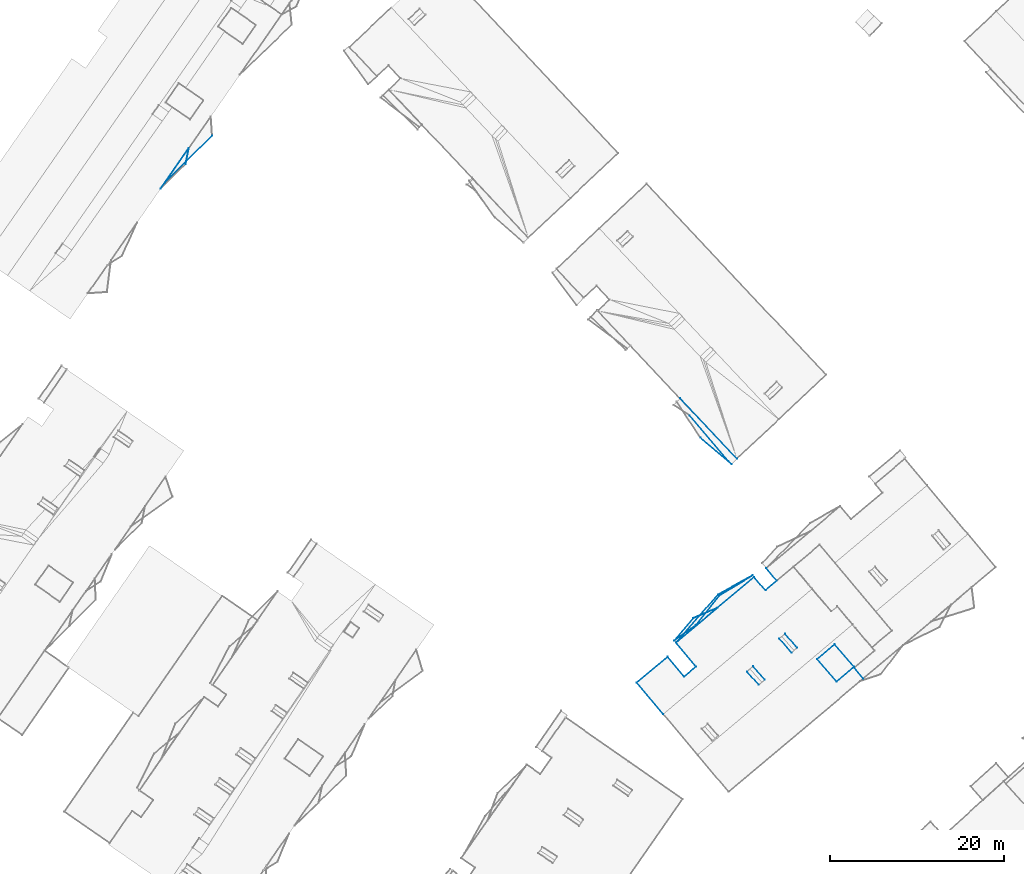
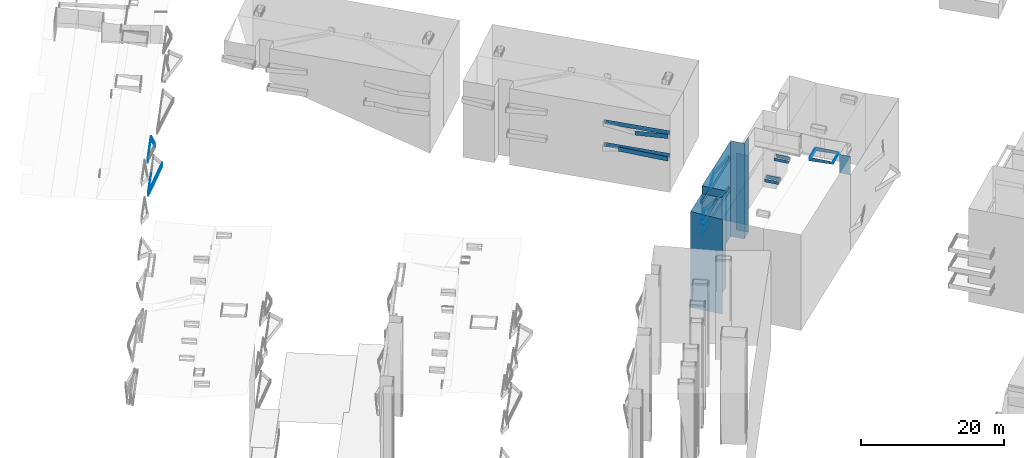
# Not in any storey, part 44 of 136: 54 walls.
"""IFC4 building model written with IfcOpenShell, lengths in metres."""

import ifcopenshell
import ifcopenshell.guid

model = None  # the IFC model being written
_history = None  # IfcOwnerHistory: only IFC2X3 demands one
_inside = {}  # id of a spatial element -> (the spatial element, [elements in it])
_under = {}  # id of a project, library or spatial element -> (it, [spatial elements below it])
_declared = {}  # id of a project -> (the project, [libraries it declares])
_typed = {}  # id of a type object -> (the type object, [elements of that type])
_made_of = {}  # id of a material, layer set ... -> (it, [elements and type objects made of it])


def new_model(schema):
    """Start an empty IFC model of exactly this schema.

    Asked for "IFC4X3", IfcOpenShell would pick the latest addendum, in which some entities
    have other attributes; the version numbers below select the first issue.
    IFC2X3 requires an IfcOwnerHistory on every rooted entity: one is made here for all.
    """
    global model, _history
    if schema == "IFC4X3":
        model = ifcopenshell.file(schema_version=(4, 3, 0, 0))
    else:
        model = ifcopenshell.file(schema=schema)
    _inside.clear()
    _under.clear()
    _declared.clear()
    _typed.clear()
    _made_of.clear()
    _history = None
    if model.schema == "IFC2X3":
        org = make("IfcOrganization", Name="unknown")
        user = make(
            "IfcPersonAndOrganization",
            ThePerson=make("IfcPerson", FamilyName="unknown"),
            TheOrganization=org,
        )
        app = make(
            "IfcApplication",
            ApplicationDeveloper=org,
            Version="unknown",
            ApplicationFullName="unknown",
            ApplicationIdentifier="unknown",
        )
        _history = make(
            "IfcOwnerHistory",
            OwningUser=user,
            OwningApplication=app,
            ChangeAction="ADDED",
            CreationDate=0,
        )
    return model


def make(cls, **values):
    """One entity of the class cls with the attributes given. An attribute that is None is left unset."""
    return model.create_entity(
        cls, **{name: value for name, value in values.items() if value is not None}
    )


def entity(cls, *values):
    """Any entity or typed value of the class cls, its attributes in the order of the schema. None: left unset."""
    e = model.create_entity(cls)
    for i, value in enumerate(values):
        if value is not None:
            e[i] = value
    return e


def rooted(cls, **values):
    """An entity with a GlobalId (a new one), such as an element, a storey or a relation."""
    return make(cls, GlobalId=ifcopenshell.guid.new(), OwnerHistory=_history, **values)


def si_unit(unit_type, name, prefix=None):
    """IfcSIUnit, for example si_unit("LENGTHUNIT", "METRE", prefix="MILLI")."""
    return make("IfcSIUnit", UnitType=unit_type, Prefix=prefix, Name=name)


def converted_unit(unit_type, name, factor, base, dimensions=None, offset=None):
    """IfcConversionBasedUnit, such as the inch: factor (a typed value) times the base unit."""
    return make(
        "IfcConversionBasedUnit"
        if offset is None
        else "IfcConversionBasedUnitWithOffset",
        ConversionOffset=offset,
        Dimensions=None
        if dimensions is None
        else entity("IfcDimensionalExponents", *dimensions),
        UnitType=unit_type,
        Name=name,
        ConversionFactor=make(
            "IfcMeasureWithUnit", ValueComponent=factor, UnitComponent=base
        ),
    )


def assignment(units):
    """IfcUnitAssignment: the units of a project."""
    return None if units is None else make("IfcUnitAssignment", Units=units)


def point(xyz):
    """IfcCartesianPoint."""
    return None if xyz is None else make("IfcCartesianPoint", Coordinates=xyz)


def direction(xyz):
    """IfcDirection."""
    return None if xyz is None else make("IfcDirection", DirectionRatios=xyz)


def frame(location, z_axis=None, x_axis=None):
    """IfcAxis2Placement3D, a coordinate frame: its origin and axes. An axis left out is left unset."""
    return make(
        "IfcAxis2Placement3D",
        Location=point(location),
        Axis=direction(z_axis),
        RefDirection=direction(x_axis),
    )


def origin():
    """The frame at (0, 0, 0) with its axes left unset."""
    return frame((0.0, 0.0, 0.0))


def place(relative_to, where):
    """IfcLocalPlacement: puts the frame where relative to a parent placement (None: the world)."""
    return make(
        "IfcLocalPlacement", PlacementRelTo=relative_to, RelativePlacement=where
    )


def context(
    kind, dimensions, precision=None, world=None, true_north=None, identifier=None
):
    """IfcGeometricRepresentationContext, for example the 3D "Model" context."""
    return make(
        "IfcGeometricRepresentationContext",
        ContextIdentifier=identifier,
        ContextType=kind,
        CoordinateSpaceDimension=dimensions,
        Precision=precision,
        WorldCoordinateSystem=world,
        TrueNorth=true_north,
    )


def subcontext(parent, identifier, kind, view, scale=None):
    """IfcGeometricRepresentationSubContext, for example "Body" below "Model"."""
    return make(
        "IfcGeometricRepresentationSubContext",
        ContextIdentifier=identifier,
        ContextType=kind,
        ParentContext=parent,
        TargetScale=scale,
        TargetView=view,
    )


def project(units=None, contexts=None):
    """IfcProject with its units and contexts."""
    return rooted(
        "IfcProject",
        Name="project",
        RepresentationContexts=contexts,
        UnitsInContext=assignment(units),
    )


def spatial(cls, under=None, at=None, **own):
    """A site, building, storey or space (cls), placed at a placement, below another one or the project."""
    s = rooted(cls, ObjectPlacement=at, **own)
    if under is not None:
        _under.setdefault(under.id(), (under, []))[1].append(s)
    return s


def faces_of(points, faces, orient=None, outer=None):
    """IfcFace entities. A face is a list of loops; a loop is a list of indices into points, from 0.

    orient and outer hold one flag for each loop. By default every Orientation is true, the
    first loop of a face is its IfcFaceOuterBound and the others are IfcFaceBound.
    """
    made = []
    for i, loops in enumerate(faces):
        bounds = []
        for j, loop in enumerate(loops):
            is_outer = j == 0 if outer is None else outer[i][j]
            bounds.append(
                make(
                    "IfcFaceOuterBound" if is_outer else "IfcFaceBound",
                    Bound=make("IfcPolyLoop", Polygon=[points[k] for k in loop]),
                    Orientation=True if orient is None else orient[i][j],
                )
            )
        made.append(make("IfcFace", Bounds=bounds))
    return made


def face_set(faces, orient=None, outer=None):
    """The faces of one IfcConnectedFaceSet. surface_model builds it on its shared points."""
    return ("IfcConnectedFaceSet", faces, orient, outer)


def surface_model(cls, points, shells):
    """IfcFaceBasedSurfaceModel or IfcShellBasedSurfaceModel (cls): surfaces that need not close."""
    shared = [point(p) for p in points]
    made = [make(c, CfsFaces=faces_of(shared, fs, o, b)) for c, fs, o, b in shells]
    if cls == "IfcFaceBasedSurfaceModel":
        return make(cls, FbsmFaces=made)
    return make(cls, SbsmBoundary=made)


def shape(context_of_items, identifier, shape_type, items):
    """IfcShapeRepresentation: the items that make up one representation, for example the "Body"."""
    return make(
        "IfcShapeRepresentation",
        ContextOfItems=context_of_items,
        RepresentationIdentifier=identifier,
        RepresentationType=shape_type,
        Items=items,
    )


def made_of(thing, what):
    """Note that an element or type object is made of a material, layer set ...; save() writes the relation."""
    if what is not None:
        _made_of.setdefault(what.id(), (what, []))[1].append(thing)
    return thing


def element(
    cls,
    number,
    at=None,
    inside=None,
    cuts=None,
    type_object=None,
    material=None,
    context=None,
    identifier="Body",
    shape_type=None,
    held_by="IfcProductDefinitionShape",
    body=None,
    shapes=None,
    **own,
):
    """One element of the class cls, such as IfcWall. Its Tag is "e" and its number.

    at: its placement. inside: the storey or other place that contains it. cuts: it is an
    opening in that element (IfcRelVoidsElement). A single representation is given by context,
    identifier, shape_type and body (its items); several are given by shapes. held_by: the class
    of the entity that holds the representations. save() writes the other relations.
    """
    e = rooted(cls, Tag="e%d" % number, ObjectPlacement=at, **own)
    if body is not None:
        shapes = [shape(context, identifier, shape_type, body)]
    if shapes is not None:
        e.Representation = make(held_by, Representations=shapes)
    if inside is not None:
        _inside.setdefault(inside.id(), (inside, []))[1].append(e)
    if cuts is not None:
        rooted(
            "IfcRelVoidsElement", RelatingBuildingElement=cuts, RelatedOpeningElement=e
        )
    if type_object is not None:
        _typed.setdefault(type_object.id(), (type_object, []))[1].append(e)
    return made_of(e, material)


def aggregate(whole, parts):
    """IfcRelAggregates: a whole, such as a stair, and the parts it consists of."""
    return rooted("IfcRelAggregates", RelatingObject=whole, RelatedObjects=parts)


def save(model, path):
    """Write the relations noted so far, then the file.

    IfcRelAggregates (storeys below a building ...), IfcRelContainedInSpatialStructure (elements
    in a storey), IfcRelDefinesByType, IfcRelAssociatesMaterial and IfcRelDeclares: one each for
    every whole, place, type object, material and project.
    """
    for whole, parts in _under.values():
        aggregate(whole, parts)
    for where, things in _inside.values():
        rooted(
            "IfcRelContainedInSpatialStructure",
            RelatedElements=things,
            RelatingStructure=where,
        )
    for kind, things in _typed.values():
        rooted("IfcRelDefinesByType", RelatedObjects=things, RelatingType=kind)
    for what, things in _made_of.values():
        rooted("IfcRelAssociatesMaterial", RelatedObjects=things, RelatingMaterial=what)
    for by, libraries in _declared.values():
        rooted("IfcRelDeclares", RelatingContext=by, RelatedDefinitions=libraries)
    model.write(path)


model = new_model("IFC4")

# Units and contexts
model_context = context("Model", 3, precision=1e-05, world=origin())
body_context = subcontext(model_context, "Body", "Model", "MODEL_VIEW")
ifc_project = project(units=[converted_unit("PLANEANGLEUNIT", "DEGREE", entity("IfcRatioMeasure", 0.0174532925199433), si_unit("PLANEANGLEUNIT", "RADIAN"), dimensions=[0, 0, 0, 0, 0, 0, 0]), si_unit("AREAUNIT", "SQUARE_METRE"), si_unit("LENGTHUNIT", "METRE")], contexts=[model_context])

# Site, building
site_placement = place(None, origin())
site = spatial("IfcSite", under=ifc_project, at=site_placement, Name="_site")
building_1_placement = place(site_placement, origin())
building_1 = spatial("IfcBuilding", under=site, at=building_1_placement, Name="_building")

# Walls
wall_1_placement = place(building_1_placement, origin())
element("IfcWall", 1, at=wall_1_placement, inside=building_1, Name="Wall", PredefinedType="NOTDEFINED", context=body_context, shape_type="SurfaceModel", body=[
    surface_model("IfcFaceBasedSurfaceModel", [(33.61, 91.68, 43.92), (40.15, 84.73, 43.92), (40.15, 84.73, 44.67), (33.61, 91.68, 44.67)], [face_set([[[0, 1, 2, 3]]])]),
])
wall_2_placement = place(building_1_placement, origin())
element("IfcWall", 2, at=wall_2_placement, inside=building_1, Name="Wall", PredefinedType="NOTDEFINED", context=body_context, shape_type="SurfaceModel", body=[
    surface_model("IfcFaceBasedSurfaceModel", [(39.52, 84.08, 43.92), (34.74, 89.67, 43.92), (34.74, 89.67, 44.67), (39.52, 84.08, 44.67)], [face_set([[[0, 1, 2, 3]]])]),
])
wall_3_placement = place(building_1_placement, origin())
element("IfcWall", 3, at=wall_3_placement, inside=building_1, Name="Wall", PredefinedType="NOTDEFINED", context=body_context, shape_type="SurfaceModel", body=[
    surface_model("IfcFaceBasedSurfaceModel", [(33.61, 91.68, 43.92), (40.15, 84.73, 43.92), (40.15, 84.73, 44.67), (33.61, 91.68, 44.67)], [face_set([[[0, 1, 2, 3]]])]),
])
wall_4_placement = place(building_1_placement, origin())
element("IfcWall", 4, at=wall_4_placement, inside=building_1, Name="Wall", PredefinedType="NOTDEFINED", context=body_context, shape_type="SurfaceModel", body=[
    surface_model("IfcFaceBasedSurfaceModel", [(39.52, 84.08, 43.92), (34.74, 89.67, 43.92), (34.74, 89.67, 44.67), (39.52, 84.08, 44.67)], [face_set([[[0, 1, 2, 3]]])]),
])
wall_5_placement = place(building_1_placement, origin())
element("IfcWall", 5, at=wall_5_placement, inside=building_1, Name="Wall", PredefinedType="NOTDEFINED", context=body_context, shape_type="SurfaceModel", body=[
    surface_model("IfcFaceBasedSurfaceModel", [(33.61, 91.68, 47.78), (40.15, 84.73, 47.78), (40.15, 84.73, 48.53), (33.61, 91.68, 48.53)], [face_set([[[0, 1, 2, 3]]])]),
])
wall_6_placement = place(building_1_placement, origin())
element("IfcWall", 6, at=wall_6_placement, inside=building_1, Name="Wall", PredefinedType="NOTDEFINED", context=body_context, shape_type="SurfaceModel", body=[
    surface_model("IfcFaceBasedSurfaceModel", [(39.52, 84.08, 47.78), (35.95, 87.13, 47.78), (35.95, 87.13, 48.53), (39.52, 84.08, 48.53)], [face_set([[[0, 1, 2, 3]]])]),
])
wall_7_placement = place(building_1_placement, origin())
element("IfcWall", 7, at=wall_7_placement, inside=building_1, Name="Wall", PredefinedType="NOTDEFINED", context=body_context, shape_type="SurfaceModel", body=[
    surface_model("IfcFaceBasedSurfaceModel", [(33.61, 91.68, 47.78), (40.15, 84.73, 47.78), (40.15, 84.73, 48.53), (33.61, 91.68, 48.53)], [face_set([[[0, 1, 2, 3]]])]),
])
wall_8_placement = place(building_1_placement, origin())
element("IfcWall", 8, at=wall_8_placement, inside=building_1, Name="Wall", PredefinedType="NOTDEFINED", context=body_context, shape_type="SurfaceModel", body=[
    surface_model("IfcFaceBasedSurfaceModel", [(39.52, 84.08, 47.78), (35.95, 87.13, 47.78), (35.95, 87.13, 48.53), (39.52, 84.08, 48.53)], [face_set([[[0, 1, 2, 3]]])]),
])

# Building
building_2_placement = place(site_placement, origin())
building_2 = spatial("IfcBuilding", under=site, at=building_2_placement, Name="_building")

# Walls
wall_9_placement = place(building_2_placement, origin())
element("IfcWall", 9, at=wall_9_placement, inside=building_2, Name="Wall", PredefinedType="NOTDEFINED", context=body_context, shape_type="SurfaceModel", body=[
    surface_model("IfcFaceBasedSurfaceModel", [(42.13, 71.12, 51.18), (33.15, 63.57, 51.18), (33.15, 63.57, 51.93), (42.13, 71.12, 51.93)], [face_set([[[0, 1, 2, 3]]])]),
])
wall_10_placement = place(building_2_placement, origin())
element("IfcWall", 10, at=wall_10_placement, inside=building_2, Name="Wall", PredefinedType="NOTDEFINED", context=body_context, shape_type="SurfaceModel", body=[
    surface_model("IfcFaceBasedSurfaceModel", [(33.15, 63.57, 45.95), (37.97, 69.101, 45.95), (37.97, 69.101, 46.7), (33.15, 63.57, 46.7)], [face_set([[[0, 1, 2, 3]]])]),
])
wall_11_placement = place(building_2_placement, origin())
element("IfcWall", 11, at=wall_11_placement, inside=building_2, Name="Wall", PredefinedType="NOTDEFINED", context=body_context, shape_type="SurfaceModel", body=[
    surface_model("IfcFaceBasedSurfaceModel", [(42.13, 71.12, 45.95), (33.15, 63.57, 45.95), (33.15, 63.57, 46.7), (42.13, 71.12, 46.7)], [face_set([[[0, 1, 2, 3]]])]),
])
wall_12_placement = place(building_2_placement, origin())
element("IfcWall", 12, at=wall_12_placement, inside=building_2, Name="Wall", PredefinedType="NOTDEFINED", context=body_context, shape_type="SurfaceModel", body=[
    surface_model("IfcFaceBasedSurfaceModel", [(37.97, 69.101, 45.95), (41.98, 71.311, 45.95), (41.98, 71.311, 46.7), (37.97, 69.101, 46.7)], [face_set([[[0, 1, 2, 3]]])]),
])
wall_13_placement = place(building_2_placement, origin())
element("IfcWall", 13, at=wall_13_placement, inside=building_2, Name="Wall", PredefinedType="NOTDEFINED", context=body_context, shape_type="SurfaceModel", body=[
    surface_model("IfcFaceBasedSurfaceModel", [(33.15, 63.57, 45.95), (37.97, 69.101, 45.95), (37.97, 69.101, 46.7), (33.15, 63.57, 46.7)], [face_set([[[0, 1, 2, 3]]])]),
])
wall_14_placement = place(building_2_placement, origin())
element("IfcWall", 14, at=wall_14_placement, inside=building_2, Name="Wall", PredefinedType="NOTDEFINED", context=body_context, shape_type="SurfaceModel", body=[
    surface_model("IfcFaceBasedSurfaceModel", [(42.13, 71.12, 45.95), (33.15, 63.57, 45.95), (33.15, 63.57, 46.7), (42.13, 71.12, 46.7)], [face_set([[[0, 1, 2, 3]]])]),
])
wall_15_placement = place(building_2_placement, origin())
element("IfcWall", 15, at=wall_15_placement, inside=building_2, Name="Wall", PredefinedType="NOTDEFINED", context=body_context, shape_type="SurfaceModel", body=[
    surface_model("IfcFaceBasedSurfaceModel", [(37.97, 69.101, 45.95), (41.98, 71.311, 45.95), (41.98, 71.311, 46.7), (37.97, 69.101, 46.7)], [face_set([[[0, 1, 2, 3]]])]),
])
wall_16_placement = place(building_2_placement, origin())
element("IfcWall", 16, at=wall_16_placement, inside=building_2, Name="Wall", PredefinedType="NOTDEFINED", context=body_context, shape_type="SurfaceModel", body=[
    surface_model("IfcFaceBasedSurfaceModel", [(53.62, 60.8, 54.76), (51.64, 59.08, 54.76), (51.64, 59.08, 54.315), (53.62, 60.8, 54.313)], [face_set([[[0, 1, 2, 3]]])]),
])
wall_17_placement = place(building_2_placement, origin())
element("IfcWall", 17, at=wall_17_placement, inside=building_2, Name="Wall", PredefinedType="NOTDEFINED", context=body_context, shape_type="SurfaceModel", body=[
    surface_model("IfcFaceBasedSurfaceModel", [(42.0, 60.86, 54.79), (43.37, 59.33, 54.79), (43.37, 59.33, 54.204), (42.0, 60.86, 54.223)], [face_set([[[0, 1, 2, 3]]])]),
])
wall_18_placement = place(building_2_placement, origin())
element("IfcWall", 18, at=wall_18_placement, inside=building_2, Name="Wall", PredefinedType="NOTDEFINED", context=body_context, shape_type="SurfaceModel", body=[
    surface_model("IfcFaceBasedSurfaceModel", [(45.68, 64.601, 54.79), (47.08, 62.99, 54.79), (47.08, 62.99, 54.213), (45.68, 64.601, 54.232)], [face_set([[[0, 1, 2, 3]]])]),
])
wall_19_placement = place(building_2_placement, origin())
element("IfcWall", 19, at=wall_19_placement, inside=building_2, Name="Wall", PredefinedType="NOTDEFINED", context=body_context, shape_type="SurfaceModel", body=[
    surface_model("IfcFaceBasedSurfaceModel", [(38.17, 69.0, 51.18), (41.98, 71.311, 51.18), (41.98, 71.311, 51.93), (38.17, 69.0, 51.93)], [face_set([[[0, 1, 2, 3]]])]),
])
wall_20_placement = place(building_2_placement, origin())
element("IfcWall", 20, at=wall_20_placement, inside=building_2, Name="Wall", PredefinedType="NOTDEFINED", context=body_context, shape_type="SurfaceModel", body=[
    surface_model("IfcFaceBasedSurfaceModel", [(35.39, 65.55, 51.18), (38.17, 69.0, 51.18), (38.17, 69.0, 51.93), (35.39, 65.55, 51.93)], [face_set([[[0, 1, 2, 3]]])]),
])
wall_21_placement = place(building_2_placement, origin())
element("IfcWall", 21, at=wall_21_placement, inside=building_2, Name="Wall", PredefinedType="NOTDEFINED", context=body_context, shape_type="SurfaceModel", body=[
    surface_model("IfcFaceBasedSurfaceModel", [(32.95, 63.811, 51.18), (35.39, 65.55, 51.18), (35.39, 65.55, 51.93), (32.95, 63.811, 51.93)], [face_set([[[0, 1, 2, 3]]])]),
])
wall_22_placement = place(building_2_placement, origin())
element("IfcWall", 22, at=wall_22_placement, inside=building_2, Name="Wall", PredefinedType="NOTDEFINED", context=body_context, shape_type="SurfaceModel", body=[
    surface_model("IfcFaceBasedSurfaceModel", [(42.68, 58.71, 54.74), (41.31, 60.24, 54.74), (41.31, 60.24, 54.222), (42.68, 58.71, 54.203)], [face_set([[[0, 1, 2, 3]]])]),
])
wall_23_placement = place(building_2_placement, origin())
element("IfcWall", 23, at=wall_23_placement, inside=building_2, Name="Wall", PredefinedType="NOTDEFINED", context=body_context, shape_type="SurfaceModel", body=[
    surface_model("IfcFaceBasedSurfaceModel", [(42.13, 71.12, 51.18), (33.15, 63.57, 51.18), (33.15, 63.57, 51.93), (42.13, 71.12, 51.93)], [face_set([[[0, 1, 2, 3]]])]),
])
wall_24_placement = place(building_2_placement, origin())
element("IfcWall", 24, at=wall_24_placement, inside=building_2, Name="Wall", PredefinedType="NOTDEFINED", context=body_context, shape_type="SurfaceModel", body=[
    surface_model("IfcFaceBasedSurfaceModel", [(38.17, 69.0, 51.18), (41.98, 71.311, 51.18), (41.98, 71.311, 51.93), (38.17, 69.0, 51.93)], [face_set([[[0, 1, 2, 3]]])]),
])
wall_25_placement = place(building_2_placement, origin())
element("IfcWall", 25, at=wall_25_placement, inside=building_2, Name="Wall", PredefinedType="NOTDEFINED", context=body_context, shape_type="SurfaceModel", body=[
    surface_model("IfcFaceBasedSurfaceModel", [(35.39, 65.55, 51.18), (38.17, 69.0, 51.18), (38.17, 69.0, 51.93), (35.39, 65.55, 51.93)], [face_set([[[0, 1, 2, 3]]])]),
])
wall_26_placement = place(building_2_placement, origin())
element("IfcWall", 26, at=wall_26_placement, inside=building_2, Name="Wall", PredefinedType="NOTDEFINED", context=body_context, shape_type="SurfaceModel", body=[
    surface_model("IfcFaceBasedSurfaceModel", [(51.64, 59.08, 54.76), (49.4, 61.66, 54.76), (49.4, 61.66, 54.126), (51.64, 59.08, 54.315)], [face_set([[[0, 1, 2, 3]]])]),
])
wall_27_placement = place(building_2_placement, origin())
element("IfcWall", 27, at=wall_27_placement, inside=building_2, Name="Wall", PredefinedType="NOTDEFINED", context=body_context, shape_type="SurfaceModel", body=[
    surface_model("IfcFaceBasedSurfaceModel", [(32.95, 63.811, 51.18), (35.39, 65.55, 51.18), (35.39, 65.55, 51.93), (32.95, 63.811, 51.93)], [face_set([[[0, 1, 2, 3]]])]),
])
wall_28_placement = place(building_2_placement, origin())
element("IfcWall", 28, at=wall_28_placement, inside=building_2, Name="Wall", PredefinedType="NOTDEFINED", context=body_context, shape_type="SurfaceModel", body=[
    surface_model("IfcFaceBasedSurfaceModel", [(42.13, 71.12, 54.41), (43.43, 69.58, 54.41), (43.43, 69.58, 38.08), (42.13, 71.12, 38.056)], [face_set([[[0, 1, 2, 3]]])]),
])
wall_29_placement = place(building_2_placement, origin())
element("IfcWall", 29, at=wall_29_placement, inside=building_2, Name="Wall", PredefinedType="NOTDEFINED", context=body_context, shape_type="SurfaceModel", body=[
    surface_model("IfcFaceBasedSurfaceModel", [(33.15, 63.57, 54.41), (42.13, 71.12, 54.41), (42.13, 71.12, 38.056), (33.15, 63.57, 38.023)], [face_set([[[0, 1, 2, 3]]])]),
])
wall_30_placement = place(building_2_placement, origin())
element("IfcWall", 30, at=wall_30_placement, inside=building_2, Name="Wall", PredefinedType="NOTDEFINED", context=body_context, shape_type="SurfaceModel", body=[
    surface_model("IfcFaceBasedSurfaceModel", [(35.46, 60.82, 54.41), (33.15, 63.57, 54.41), (33.15, 63.57, 38.023), (35.46, 60.82, 38.055)], [face_set([[[0, 1, 2, 3]]])]),
])
wall_31_placement = place(building_2_placement, origin())
element("IfcWall", 31, at=wall_31_placement, inside=building_2, Name="Wall", PredefinedType="NOTDEFINED", context=body_context, shape_type="SurfaceModel", body=[
    surface_model("IfcFaceBasedSurfaceModel", [(34.08, 59.65, 54.41), (35.46, 60.82, 54.41), (35.46, 60.82, 38.055), (34.08, 59.65, 38.057)], [face_set([[[0, 1, 2, 3]]])]),
])
wall_32_placement = place(building_2_placement, origin())
element("IfcWall", 32, at=wall_32_placement, inside=building_2, Name="Wall", PredefinedType="NOTDEFINED", context=body_context, shape_type="SurfaceModel", body=[
    surface_model("IfcFaceBasedSurfaceModel", [(32.17, 61.93, 54.41), (34.08, 59.65, 54.41), (34.08, 59.65, 38.057), (32.17, 61.93, 38.031)], [face_set([[[0, 1, 2, 3]]])]),
])
wall_33_placement = place(building_2_placement, origin())
element("IfcWall", 33, at=wall_33_placement, inside=building_2, Name="Wall", PredefinedType="NOTDEFINED", context=body_context, shape_type="SurfaceModel", body=[
    surface_model("IfcFaceBasedSurfaceModel", [(28.64, 58.96, 54.41), (32.17, 61.93, 54.41), (32.17, 61.93, 38.031), (28.64, 58.96, 38.019)], [face_set([[[0, 1, 2, 3]]])]),
])
wall_34_placement = place(building_2_placement, origin())
element("IfcWall", 34, at=wall_34_placement, inside=building_2, Name="Wall", PredefinedType="NOTDEFINED", context=body_context, shape_type="SurfaceModel", body=[
    surface_model("IfcFaceBasedSurfaceModel", [(31.68, 55.36, 54.15), (28.64, 58.96, 54.41), (28.64, 58.96, 38.019), (31.68, 55.36, 37.999)], [face_set([[[0, 1, 2, 3]]])]),
])
wall_35_placement = place(building_2_placement, origin())
element("IfcWall", 35, at=wall_35_placement, inside=building_2, Name="Wall", PredefinedType="NOTDEFINED", context=body_context, shape_type="SurfaceModel", body=[
    surface_model("IfcFaceBasedSurfaceModel", [(44.75, 70.68, 51.23), (43.54, 72.12, 51.23), (43.54, 72.12, 38.063), (44.75, 70.68, 38.092)], [face_set([[[0, 1, 2, 3]]])]),
])
wall_36_placement = place(building_2_placement, origin())
element("IfcWall", 36, at=wall_36_placement, inside=building_2, Name="Wall", PredefinedType="NOTDEFINED", context=body_context, shape_type="SurfaceModel", body=[
    surface_model("IfcFaceBasedSurfaceModel", [(53.66, 60.67, 54.32), (54.7, 59.43, 54.41), (54.7, 59.43, 51.2), (53.66, 60.67, 51.2)], [face_set([[[0, 1, 2, 3]]])]),
])
wall_37_placement = place(building_2_placement, origin())
element("IfcWall", 37, at=wall_37_placement, inside=building_2, Name="Wall", PredefinedType="NOTDEFINED", context=body_context, shape_type="SurfaceModel", body=[
    surface_model("IfcFaceBasedSurfaceModel", [(37.91, 67.58, 47.57), (33.15, 63.57, 47.57), (33.15, 63.57, 48.32), (37.91, 67.58, 48.32)], [face_set([[[0, 1, 2, 3]]])]),
])
wall_38_placement = place(building_2_placement, origin())
element("IfcWall", 38, at=wall_38_placement, inside=building_2, Name="Wall", PredefinedType="NOTDEFINED", context=body_context, shape_type="SurfaceModel", body=[
    surface_model("IfcFaceBasedSurfaceModel", [(35.14, 66.39, 47.57), (37.91, 67.58, 47.57), (37.91, 67.58, 48.32), (35.14, 66.39, 48.32)], [face_set([[[0, 1, 2, 3]]])]),
])
wall_39_placement = place(building_2_placement, origin())
element("IfcWall", 39, at=wall_39_placement, inside=building_2, Name="Wall", PredefinedType="NOTDEFINED", context=body_context, shape_type="SurfaceModel", body=[
    surface_model("IfcFaceBasedSurfaceModel", [(32.95, 63.811, 47.57), (35.14, 66.39, 47.57), (35.14, 66.39, 48.32), (32.95, 63.811, 48.32)], [face_set([[[0, 1, 2, 3]]])]),
])
wall_40_placement = place(building_2_placement, origin())
element("IfcWall", 40, at=wall_40_placement, inside=building_2, Name="Wall", PredefinedType="NOTDEFINED", context=body_context, shape_type="SurfaceModel", body=[
    surface_model("IfcFaceBasedSurfaceModel", [(37.91, 67.58, 47.57), (33.15, 63.57, 47.57), (33.15, 63.57, 48.32), (37.91, 67.58, 48.32)], [face_set([[[0, 1, 2, 3]]])]),
])
wall_41_placement = place(building_2_placement, origin())
element("IfcWall", 41, at=wall_41_placement, inside=building_2, Name="Wall", PredefinedType="NOTDEFINED", context=body_context, shape_type="SurfaceModel", body=[
    surface_model("IfcFaceBasedSurfaceModel", [(35.14, 66.39, 47.57), (37.91, 67.58, 47.57), (37.91, 67.58, 48.32), (35.14, 66.39, 48.32)], [face_set([[[0, 1, 2, 3]]])]),
])
wall_42_placement = place(building_2_placement, origin())
element("IfcWall", 42, at=wall_42_placement, inside=building_2, Name="Wall", PredefinedType="NOTDEFINED", context=body_context, shape_type="SurfaceModel", body=[
    surface_model("IfcFaceBasedSurfaceModel", [(32.95, 63.811, 47.57), (35.14, 66.39, 47.57), (35.14, 66.39, 48.32), (32.95, 63.811, 48.32)], [face_set([[[0, 1, 2, 3]]])]),
])
wall_43_placement = place(building_2_placement, origin())
element("IfcWall", 43, at=wall_43_placement, inside=building_2, Name="Wall", PredefinedType="NOTDEFINED", context=body_context, shape_type="SurfaceModel", body=[
    surface_model("IfcFaceBasedSurfaceModel", [(51.38, 63.38, 54.76), (53.62, 60.8, 54.76), (53.62, 60.8, 54.313), (51.38, 63.38, 54.123)], [face_set([[[0, 1, 2, 3]]])]),
])
wall_44_placement = place(building_2_placement, origin())
element("IfcWall", 44, at=wall_44_placement, inside=building_2, Name="Wall", PredefinedType="NOTDEFINED", context=body_context, shape_type="SurfaceModel", body=[
    surface_model("IfcFaceBasedSurfaceModel", [(49.4, 61.66, 54.76), (51.38, 63.38, 54.76), (51.38, 63.38, 54.123), (49.4, 61.66, 54.126)], [face_set([[[0, 1, 2, 3]]])]),
])
wall_45_placement = place(building_2_placement, origin())
element("IfcWall", 45, at=wall_45_placement, inside=building_2, Name="Wall", PredefinedType="NOTDEFINED", context=body_context, shape_type="SurfaceModel", body=[
    surface_model("IfcFaceBasedSurfaceModel", [(43.43, 69.58, 54.41), (44.75, 70.68, 54.37), (44.75, 70.68, 38.092), (43.43, 69.58, 38.08)], [face_set([[[0, 1, 2, 3]]])]),
])
wall_46_placement = place(building_2_placement, origin())
element("IfcWall", 46, at=wall_46_placement, inside=building_2, Name="Wall", PredefinedType="NOTDEFINED", context=body_context, shape_type="SurfaceModel", body=[
    surface_model("IfcFaceBasedSurfaceModel", [(46.44, 62.43, 54.71), (45.04, 64.04, 54.71), (45.04, 64.04, 54.232), (46.44, 62.43, 54.212)], [face_set([[[0, 1, 2, 3]]])]),
])

# Building
building_3_placement = place(site_placement, origin())
building_3 = spatial("IfcBuilding", under=site, at=building_3_placement, Name="_building")

# Walls
wall_47_placement = place(building_3_placement, origin())
element("IfcWall", 47, at=wall_47_placement, inside=building_3, Name="Wall", PredefinedType="NOTDEFINED", context=body_context, shape_type="SurfaceModel", body=[
    surface_model("IfcFaceBasedSurfaceModel", [(-26.19, 115.8, 47.36), (-22.92, 120.5, 47.36), (-22.92, 120.5, 48.11), (-26.19, 115.8, 48.11)], [face_set([[[0, 1, 2, 3]]])]),
])
wall_48_placement = place(building_3_placement, origin())
element("IfcWall", 48, at=wall_48_placement, inside=building_3, Name="Wall", PredefinedType="NOTDEFINED", context=body_context, shape_type="SurfaceModel", body=[
    surface_model("IfcFaceBasedSurfaceModel", [(-22.92, 120.5, 47.36), (-23.3, 118.65, 47.36), (-23.3, 118.65, 48.11), (-22.92, 120.5, 48.11)], [face_set([[[0, 1, 2, 3]]])]),
])
wall_49_placement = place(building_3_placement, origin())
element("IfcWall", 49, at=wall_49_placement, inside=building_3, Name="Wall", PredefinedType="NOTDEFINED", context=body_context, shape_type="SurfaceModel", body=[
    surface_model("IfcFaceBasedSurfaceModel", [(-26.19, 115.8, 47.36), (-22.92, 120.5, 47.36), (-22.92, 120.5, 48.11), (-26.19, 115.8, 48.11)], [face_set([[[0, 1, 2, 3]]])]),
])
wall_50_placement = place(building_3_placement, origin())
element("IfcWall", 50, at=wall_50_placement, inside=building_3, Name="Wall", PredefinedType="NOTDEFINED", context=body_context, shape_type="SurfaceModel", body=[
    surface_model("IfcFaceBasedSurfaceModel", [(-22.92, 120.5, 47.36), (-23.3, 118.65, 47.36), (-23.3, 118.65, 48.11), (-22.92, 120.5, 48.11)], [face_set([[[0, 1, 2, 3]]])]),
])
for number, where, name in (
    (51, (0.0, 0.0, 0.0), "Wall"),
    (52, (0.0, 0.0, 0.0), "Wall"),
):
    element("IfcWall", number, at=place(building_3_placement, frame(where)), inside=building_3, Name=name, PredefinedType="NOTDEFINED", context=body_context, shape_type="SurfaceModel", body=[
        surface_model("IfcFaceBasedSurfaceModel", [(-25.68, 116.53, 41.07), (-22.92, 120.5, 41.07), (-22.92, 120.5, 41.82), (-25.68, 116.53, 41.82)], [face_set([[[0, 1, 2, 3]]])]),
    ])
for number, where, name in (
    (53, (0.0, 0.0, 0.0), "Wall"),
    (54, (0.0, 0.0, 0.0), "Wall"),
):
    element("IfcWall", number, at=place(building_3_placement, frame(where)), inside=building_3, Name=name, PredefinedType="NOTDEFINED", context=body_context, shape_type="SurfaceModel", body=[
        surface_model("IfcFaceBasedSurfaceModel", [(-20.25, 121.92, 41.07), (-25.68, 116.53, 41.07), (-25.68, 116.53, 41.82), (-20.25, 121.92, 41.82)], [face_set([[[0, 1, 2, 3]]])]),
    ])

save(model, "model.ifc")
